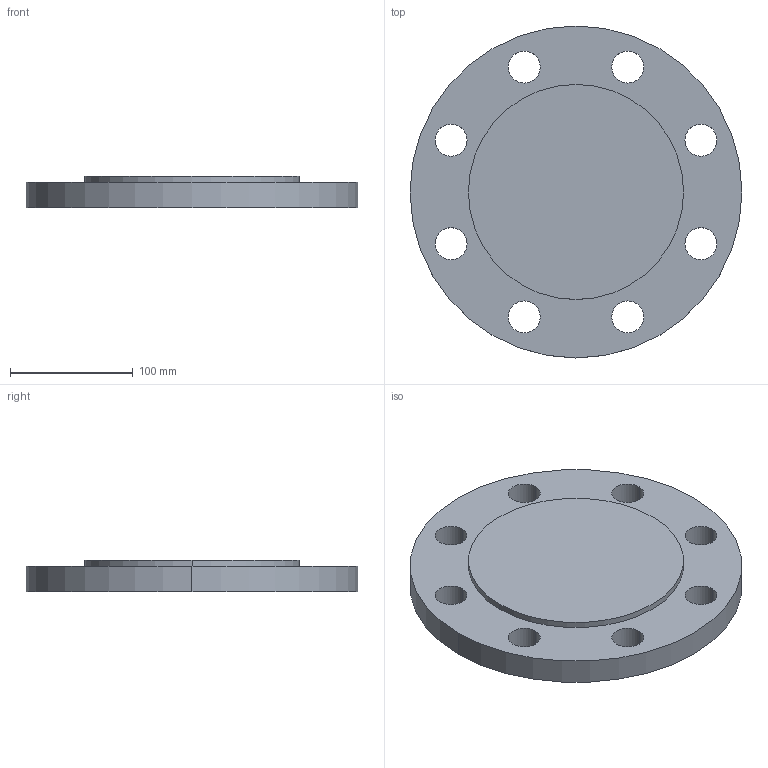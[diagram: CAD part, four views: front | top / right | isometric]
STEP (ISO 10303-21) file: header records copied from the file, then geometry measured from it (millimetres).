
FILE_DESCRIPTION (( 'STEP AP214' ), '1' );
FILE_NAME ('PN40 DN125 Type 05 - Type E Face.STEP', '2019-01-02T19:29:23', ( '' ), ( '' ), 'SwSTEP 2.0', 'SolidWorks 2019', '' );
FILE_SCHEMA (( 'AUTOMOTIVE_DESIGN' ));
Length unit declared in the file: millimetre
Products named in the file (1): PN40 DN125 Type 05 - Type E Face
Bounding box: 270 x 270 x 26 mm (x, y, z)
Volume: 1233434 mm3; surface area: 140300.4 mm2
Topology: 1 solids, 1 shells, 23 faces, 60 edges, 40 vertices
Faces by surface type: cylinder 20, plane 3
Entity records: 800 total; most frequent: DIRECTION 148, CARTESIAN_POINT 124, ORIENTED_EDGE 120, AXIS2_PLACEMENT_3D 64, EDGE_CURVE 60, EDGE_LOOP 40, VERTEX_POINT 40, CIRCLE 40
